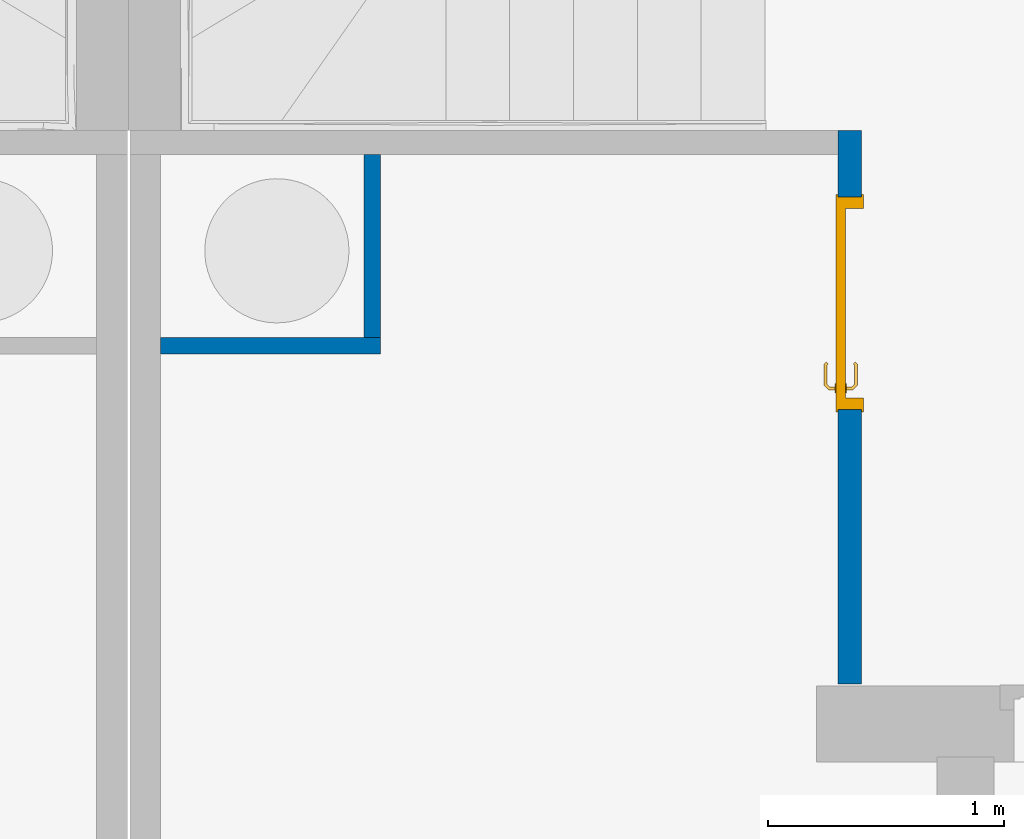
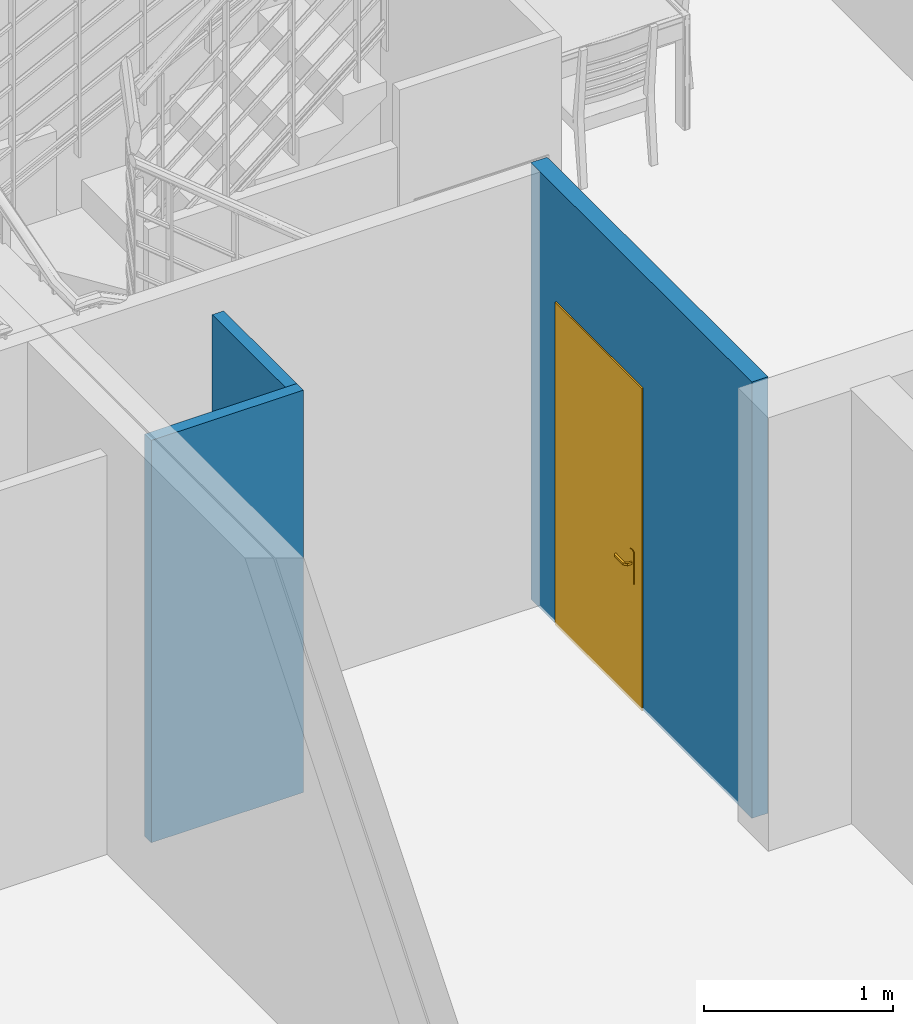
# One storey, part 7 of 33: 3 walls, 1 door, 1 opening.
"""IFC2X3 building model written with IfcOpenShell, lengths in metres."""

from ifc_helpers import new_model, entity, si_unit, converted_unit, derived_unit, direction, frame, frame_2d, origin, place, context, subcontext, project, spatial, rectangle, extrude, faceted_brep, source, transform, mapped, material, material_list, layer, layer_set, layer_usage, type_object, type_shapes, element, fill, save


model = new_model("IFC2X3")

# Units and contexts
model_context = context("Model", 3, precision=1e-05, world=origin(), true_north=direction((6.12303176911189e-17, 1.0)))
context_of_model = context(None, 3, precision=1e-05, world=origin(), true_north=direction((6.12303176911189e-17, 1.0)))
body_context = subcontext(model_context, "Body", "Model", "MODEL_VIEW")
ifc_project = project(units=[si_unit("LENGTHUNIT", "METRE"), si_unit("AREAUNIT", "SQUARE_METRE"), si_unit("VOLUMEUNIT", "CUBIC_METRE"), converted_unit("PLANEANGLEUNIT", "DEGREE", entity("IfcRatioMeasure", 0.0174532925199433), si_unit("PLANEANGLEUNIT", "RADIAN"), dimensions=[0, 0, 0, 0, 0, 0, 0]), si_unit("MASSUNIT", "GRAM", prefix="KILO"), si_unit("TIMEUNIT", "SECOND"), si_unit("FREQUENCYUNIT", "HERTZ"), si_unit("THERMODYNAMICTEMPERATUREUNIT", "DEGREE_CELSIUS"), derived_unit("THERMALTRANSMITTANCEUNIT", [(si_unit("MASSUNIT", "GRAM", prefix="KILO"), 1), (si_unit("THERMODYNAMICTEMPERATUREUNIT", "KELVIN"), -1), (si_unit("TIMEUNIT", "SECOND"), -3)]), derived_unit("VOLUMETRICFLOWRATEUNIT", [(si_unit("LENGTHUNIT", "METRE"), 3), (si_unit("TIMEUNIT", "SECOND"), -1)]), si_unit("ELECTRICCURRENTUNIT", "AMPERE"), si_unit("ELECTRICVOLTAGEUNIT", "VOLT"), si_unit("POWERUNIT", "WATT"), si_unit("FORCEUNIT", "NEWTON", prefix="KILO"), si_unit("ILLUMINANCEUNIT", "LUX"), si_unit("LUMINOUSFLUXUNIT", "LUMEN"), si_unit("LUMINOUSINTENSITYUNIT", "CANDELA"), si_unit("PRESSUREUNIT", "PASCAL")], contexts=[model_context, context_of_model])

# Site, building, storey
site_placement = place(None, origin())
site = spatial("IfcSite", under=ifc_project, at=site_placement, Name="Surface", CompositionType="ELEMENT")
building_placement = place(site_placement, origin())
building = spatial("IfcBuilding", under=site, at=building_placement, CompositionType="ELEMENT")
storey_placement = place(building_placement, origin())
storey = spatial("IfcBuildingStorey", under=building, at=storey_placement, Name="Plan des fondations  Maisons 1 et 2", CompositionType="ELEMENT", Elevation=0.0)

# Wall, opening, door
ifc_material_1 = material(Name="Peinture - Blanc")
ifc_layer_1 = layer(ifc_material_1, 0.1)
ifc_layer_set_1 = layer_set([ifc_layer_1], Name="Mur de base:Int.  Platre 100 mm en blanc 2")
ifc_layer_usage_1 = layer_usage(ifc_layer_set_1, "AXIS2", "NEGATIVE", 0.05)
wall_type_1 = type_object("IfcWallType", Name="Mur de base:Int.  Platre 100 mm en blanc 2", PredefinedType="STANDARD", material=ifc_layer_set_1)
wall_1_placement = place(storey_placement, frame((71.8846263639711, 80.2177566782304, 0.0), z_axis=(0.0, 0.0, 1.0), x_axis=(0.0, 1.0, 0.0)))
wall_1 = element("IfcWallStandardCase", 1, at=wall_1_placement, inside=storey, type_object=wall_type_1, material=ifc_layer_usage_1, Name="Mur de base:Int.  Platre 100 mm en blanc 2", ObjectType="Mur de base:Int.  Platre 100 mm en blanc 2", context=body_context, shape_type="SweptSolid", body=[
    extrude(rectangle(XDim=2.33999999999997, YDim=0.0999999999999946, at=frame_2d((1.16999999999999, -5.58580959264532e-16), x_axis=(-1.0, 0.0))), origin(), (0.0, 0.0, 1.0), 2.82),
])
opening_placement = place(wall_1_placement, frame((1.15999999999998, -0.0499999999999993, 0.0)))
opening = element("IfcOpeningElement", 2, at=opening_placement, cuts=wall_1, Name="FR_Simple (R):83 x 204 - (80):1", ObjectType="Opening", context=body_context, shape_type="SweptSolid", body=[
    extrude(rectangle(XDim=2.075, YDim=0.9, at=frame_2d((1.0375, 0.45), x_axis=(1.0, 0.0))), frame((0.0, 0.0, 0.0), z_axis=(0.0, 1.0, 0.0), x_axis=(0.0, 0.0, 1.0)), (0.0, 0.0, 1.0), 0.1),
])
ifc_material_2 = material(Name="Poignée Porte")
ifc_material_3 = material(Name="Dormants Portes")
ifc_material_4 = material(Name="Panneaux Portes")
ifc_material_list_1 = material_list([ifc_material_2, ifc_material_3, ifc_material_4])
ifc_material_list_2 = material_list([ifc_material_2, ifc_material_3, ifc_material_4])
door_style = type_object("IfcDoorStyle", Name="83 x 204 - (80)", ConstructionType="NOTDEFINED", OperationType="SINGLE_SWING_RIGHT", ParameterTakesPrecedence=False, Sizeable=False, material=ifc_material_list_2)
shared_shape = source(origin(), body_context, "Body", "Brep", [
    faceted_brep([(0.810000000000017, -0.0130000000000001, 0.764641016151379), (0.820352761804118, -0.0130000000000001, 0.766003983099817), (0.830000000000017, -0.0130000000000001, 0.770000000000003), (0.830000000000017, -0.0130000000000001, 0.980000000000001), (0.820352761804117, -0.0130000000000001, 0.983996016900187), (0.810000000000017, -0.0130000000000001, 0.985358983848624), (0.799647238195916, -0.0130000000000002, 0.983996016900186), (0.790000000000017, -0.0130000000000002, 0.980000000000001), (0.790000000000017, -0.0130000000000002, 0.770000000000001), (0.799647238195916, -0.0130000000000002, 0.766003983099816), (0.830000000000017, -0.00800000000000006, 0.980000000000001), (0.830000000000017, -0.00800000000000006, 0.770000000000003), (0.820352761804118, -0.00800000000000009, 0.766003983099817), (0.810000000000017, -0.00800000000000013, 0.764641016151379), (0.799647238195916, -0.00800000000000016, 0.766003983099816), (0.790000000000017, -0.00800000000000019, 0.770000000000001), (0.790000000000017, -0.00800000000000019, 0.980000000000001), (0.799647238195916, -0.00800000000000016, 0.983996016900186), (0.810000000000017, -0.00800000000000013, 0.985358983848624), (0.820352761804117, -0.00800000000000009, 0.983996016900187)], [[[0, 1, 2, 3, 4, 5, 6, 7, 8, 9]], [[10, 11, 12, 13, 14, 15, 16, 17, 18, 19]], [[1, 12, 11, 2]], [[0, 13, 12, 1]], [[9, 14, 13, 0]], [[9, 8, 15, 14]], [[15, 8, 7, 16]], [[6, 17, 16, 7]], [[5, 18, 17, 6]], [[4, 19, 18, 5]], [[4, 3, 10, 19]], [[10, 3, 2, 11]]]),
    faceted_brep([(0.830000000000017, 0.0319999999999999, 0.770000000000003), (0.830000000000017, 0.0319999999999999, 0.980000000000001), (0.820352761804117, 0.0319999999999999, 0.983996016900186), (0.810000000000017, 0.0319999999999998, 0.985358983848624), (0.799647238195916, 0.0319999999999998, 0.983996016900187), (0.790000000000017, 0.0319999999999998, 0.980000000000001), (0.790000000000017, 0.0319999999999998, 0.770000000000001), (0.799647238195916, 0.0319999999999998, 0.766003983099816), (0.810000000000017, 0.0319999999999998, 0.764641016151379), (0.820352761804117, 0.0319999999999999, 0.766003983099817), (0.810000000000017, 0.0369999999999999, 0.985358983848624), (0.820352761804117, 0.0369999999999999, 0.983996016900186), (0.830000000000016, 0.0369999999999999, 0.980000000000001), (0.830000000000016, 0.0369999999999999, 0.770000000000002), (0.820352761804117, 0.0369999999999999, 0.766003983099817), (0.810000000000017, 0.0369999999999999, 0.764641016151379), (0.799647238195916, 0.0369999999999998, 0.766003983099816), (0.790000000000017, 0.0369999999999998, 0.770000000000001), (0.790000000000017, 0.0369999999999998, 0.980000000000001), (0.799647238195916, 0.0369999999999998, 0.983996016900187)], [[[0, 1, 2, 3, 4, 5, 6, 7, 8, 9]], [[10, 11, 12, 13, 14, 15, 16, 17, 18, 19]], [[4, 19, 18, 5]], [[3, 10, 19, 4]], [[2, 11, 10, 3]], [[2, 1, 12, 11]], [[12, 1, 0, 13]], [[9, 14, 13, 0]], [[8, 15, 14, 9]], [[7, 16, 15, 8]], [[7, 6, 17, 16]], [[17, 6, 5, 18]]]),
    faceted_brep([(0.807974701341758, -0.0130000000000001, 0.907780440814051), (0.812025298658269, -0.0130000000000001, 0.907780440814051), (0.816000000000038, -0.0130000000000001, 0.906999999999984), (0.816000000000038, -0.0130000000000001, 0.892999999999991), (0.812025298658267, -0.0130000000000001, 0.892219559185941), (0.807974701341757, -0.0130000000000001, 0.89221955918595), (0.80399999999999, -0.0130000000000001, 0.893000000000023), (0.803999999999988, -0.0130000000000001, 0.90699999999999), (0.812025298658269, -0.0390045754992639, 0.907780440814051), (0.816000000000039, -0.0406509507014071, 0.906999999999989), (0.807974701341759, -0.0373267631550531, 0.907780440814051), (0.794298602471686, -0.0510028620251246, 0.907780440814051), (0.795976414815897, -0.0550534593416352, 0.907780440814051), (0.709142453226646, -0.0550534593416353, 0.90778044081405), (0.710820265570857, -0.0510028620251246, 0.90778044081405), (0.704342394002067, -0.0445249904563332, 0.90778044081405), (0.701478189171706, -0.0473891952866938, 0.90778044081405), (0.803999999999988, -0.0356803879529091, 0.90699999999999), (0.80399999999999, -0.0356803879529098, 0.893000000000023), (0.807974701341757, -0.0373267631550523, 0.89221955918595), (0.812025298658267, -0.0390045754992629, 0.89221955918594), (0.795976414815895, -0.0550534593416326, 0.89221955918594), (0.794298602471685, -0.0510028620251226, 0.89221955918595), (0.710820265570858, -0.0510028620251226, 0.89221955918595), (0.709142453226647, -0.0550534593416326, 0.89221955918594), (0.701478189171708, -0.0473891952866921, 0.89221955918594), (0.704342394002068, -0.044524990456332, 0.89221955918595), (0.816000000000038, -0.0406509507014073, 0.892999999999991), (0.797622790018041, -0.059028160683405, 0.906999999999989), (0.792652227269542, -0.0470281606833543, 0.90699999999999), (0.792652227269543, -0.0470281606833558, 0.893000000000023), (0.79762279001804, -0.0590281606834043, 0.892999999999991), (0.752559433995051, -0.053182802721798, 0.907878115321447), (0.757692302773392, -0.0590281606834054, 0.906999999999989), (0.707496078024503, -0.0590281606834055, 0.906999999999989), (0.752559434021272, -0.0470281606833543, 0.90699999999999), (0.712466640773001, -0.0470281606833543, 0.906999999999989), (0.752559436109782, -0.0470281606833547, 0.893000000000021), (0.712466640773, -0.0470281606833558, 0.893000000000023), (0.752559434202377, -0.0531828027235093, 0.892121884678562), (0.747426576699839, -0.0590281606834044, 0.892999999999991), (0.707496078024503, -0.0590281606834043, 0.892999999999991), (0.707152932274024, -0.0417144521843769, 0.89300000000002), (0.69866765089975, -0.0501997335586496, 0.892999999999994), (0.698667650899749, -0.0501997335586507, 0.906999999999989), (0.707152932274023, -0.0417144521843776, 0.906999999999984)], [[[0, 1, 2, 3, 4, 5, 6, 7]], [[2, 1, 8, 9]], [[1, 0, 10, 11, 12, 8]], [[13, 14, 15, 16]], [[0, 7, 17, 10]], [[18, 17, 7, 6]], [[5, 19, 18, 6]], [[5, 4, 20, 21, 22, 19]], [[23, 24, 25, 26]], [[3, 27, 20, 4]], [[9, 27, 3, 2]], [[9, 8, 12, 28]], [[10, 17, 29, 11]], [[30, 29, 17, 18]], [[18, 19, 22, 30]], [[20, 27, 31, 21]], [[28, 31, 27, 9]], [[12, 32, 33]], [[13, 33, 32]], [[33, 28, 12]], [[33, 13, 34]], [[11, 35, 32]], [[32, 12, 11]], [[32, 35, 14]], [[35, 11, 29]], [[36, 14, 35]], [[13, 32, 14]], [[30, 37, 38, 36, 35, 29]], [[39, 37, 22]], [[40, 41, 24]], [[40, 21, 31]], [[39, 21, 40]], [[23, 37, 39]], [[39, 24, 23]], [[30, 22, 37]], [[37, 23, 38]], [[21, 39, 22]], [[24, 39, 40]], [[31, 28, 33, 34, 41, 40]], [[42, 26, 25, 43, 44, 16, 15, 45]], [[13, 16, 44, 34]], [[36, 45, 15, 14]], [[42, 45, 36, 38]], [[38, 23, 26, 42]], [[24, 41, 43, 25]], [[44, 43, 41, 34]]]),
    faceted_brep([(0.812025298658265, 0.0369999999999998, 0.907780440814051), (0.807974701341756, 0.0369999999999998, 0.907780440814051), (0.803999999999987, 0.0369999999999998, 0.90699999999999), (0.803999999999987, 0.0369999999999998, 0.89300000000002), (0.807974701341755, 0.0369999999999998, 0.892219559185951), (0.812025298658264, 0.0369999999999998, 0.892219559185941), (0.816000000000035, 0.0369999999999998, 0.892999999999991), (0.816000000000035, 0.0369999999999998, 0.90699999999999), (0.803999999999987, 0.0594852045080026, 0.90699999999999), (0.803999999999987, 0.0594852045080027, 0.89300000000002), (0.807974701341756, 0.0611315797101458, 0.907780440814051), (0.812025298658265, 0.0628093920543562, 0.907780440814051), (0.795838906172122, 0.0789957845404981, 0.907780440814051), (0.794161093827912, 0.0749451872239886, 0.907780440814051), (0.71079312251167, 0.0749451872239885, 0.907780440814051), (0.70911531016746, 0.0789957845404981, 0.907780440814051), (0.701451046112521, 0.071331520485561, 0.907780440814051), (0.70431525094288, 0.0684673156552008, 0.907780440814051), (0.816000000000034, 0.0644557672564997, 0.90699999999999), (0.816000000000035, 0.0644557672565, 0.892999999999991), (0.812025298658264, 0.0628093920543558, 0.892219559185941), (0.807974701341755, 0.0611315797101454, 0.892219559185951), (0.794161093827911, 0.0749451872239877, 0.892219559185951), (0.795838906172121, 0.0789957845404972, 0.892219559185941), (0.70911531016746, 0.0789957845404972, 0.89221955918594), (0.71079312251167, 0.0749451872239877, 0.89221955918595), (0.704315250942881, 0.0684673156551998, 0.89221955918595), (0.701451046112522, 0.07133152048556, 0.89221955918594), (0.792514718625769, 0.07097048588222, 0.89300000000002), (0.792514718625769, 0.0709704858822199, 0.90699999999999), (0.797485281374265, 0.0829704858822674, 0.90699999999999), (0.797485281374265, 0.082970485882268, 0.892999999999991), (0.752477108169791, 0.0709704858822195, 0.90699999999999), (0.712439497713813, 0.0709704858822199, 0.90699999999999), (0.712439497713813, 0.0709704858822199, 0.89300000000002), (0.752477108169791, 0.0709704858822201, 0.89300000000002), (0.752477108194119, 0.0771249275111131, 0.907878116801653), (0.747399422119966, 0.0829704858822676, 0.90699999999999), (0.707468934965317, 0.0829704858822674, 0.90699999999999), (0.757554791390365, 0.0829704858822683, 0.892999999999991), (0.707468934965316, 0.082970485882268, 0.892999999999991), (0.752477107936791, 0.0771249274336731, 0.892121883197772), (0.698640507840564, 0.0741420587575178, 0.90699999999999), (0.698640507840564, 0.074142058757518, 0.892999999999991), (0.707125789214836, 0.0656567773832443, 0.89300000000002), (0.707125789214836, 0.0656567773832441, 0.90699999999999)], [[[0, 1, 2, 3, 4, 5, 6, 7]], [[8, 9, 3, 2]], [[1, 10, 8, 2]], [[1, 0, 11, 12, 13, 10]], [[14, 15, 16, 17]], [[7, 18, 11, 0]], [[18, 7, 6, 19]], [[6, 5, 20, 19]], [[5, 4, 21, 22, 23, 20]], [[24, 25, 26, 27]], [[4, 3, 9, 21]], [[28, 9, 8, 29]], [[8, 10, 13, 29]], [[18, 30, 12, 11]], [[31, 30, 18, 19]], [[19, 20, 23, 31]], [[21, 9, 28, 22]], [[28, 29, 32, 33, 34, 35]], [[36, 32, 13]], [[37, 38, 15]], [[37, 12, 30]], [[36, 12, 37]], [[14, 32, 36]], [[36, 15, 14]], [[29, 13, 32]], [[32, 14, 33]], [[12, 36, 13]], [[15, 36, 37]], [[30, 31, 39, 40, 38, 37]], [[23, 41, 39]], [[24, 39, 41]], [[39, 31, 23]], [[39, 24, 40]], [[22, 35, 41]], [[41, 23, 22]], [[41, 35, 25]], [[35, 22, 28]], [[34, 25, 35]], [[24, 41, 25]], [[17, 16, 42, 43, 27, 26, 44, 45]], [[44, 34, 33, 45]], [[33, 14, 17, 45]], [[15, 38, 42, 16]], [[42, 38, 40, 43]], [[24, 27, 43, 40]], [[34, 44, 26, 25]]]),
    faceted_brep([(0.900000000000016, 0.0, 0.0), (0.910000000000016, 0.0, 0.0), (0.910000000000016, -0.00799999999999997, 0.0), (0.865000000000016, -0.00799999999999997, 0.0), (0.865000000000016, 0.032, 0.0), (0.850000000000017, 0.032, 0.0), (0.850000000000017, 0.108000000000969, 0.0), (0.910000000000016, 0.108000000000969, 0.0), (0.910000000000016, 0.10000000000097, 0.0), (0.900000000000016, 0.10000000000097, 0.0), (0.900000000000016, 0.10000000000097, 2.075), (0.900000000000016, 0.0, 2.075), (0.910000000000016, 0.10000000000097, 2.085), (-0.00999999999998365, 0.10000000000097, 2.085), (-0.00999999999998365, 0.10000000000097, 0.0), (0.0, 0.10000000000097, 0.0), (0.0, 0.10000000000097, 2.075), (0.910000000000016, 0.108000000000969, 2.085), (0.850000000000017, 0.108000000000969, 2.025), (0.0500000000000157, 0.108000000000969, 2.025), (0.0500000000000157, 0.108000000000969, 0.0), (-0.00999999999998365, 0.108000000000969, 0.0), (-0.00999999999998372, 0.108000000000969, 2.085), (0.850000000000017, 0.032, 2.025), (0.865000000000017, 0.032, 2.04), (0.0350000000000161, 0.032, 2.04), (0.0350000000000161, 0.032, 0.0), (0.0500000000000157, 0.032, 0.0), (0.0500000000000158, 0.032, 2.025), (0.865000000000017, -0.00799999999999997, 2.04), (0.910000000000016, -0.00799999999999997, 2.085), (-0.00999999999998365, -0.00799999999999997, 2.085), (-0.00999999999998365, -0.00799999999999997, 0.0), (0.0350000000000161, -0.00799999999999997, 0.0), (0.0350000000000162, -0.00799999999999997, 2.04), (0.910000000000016, 0.0, 2.085), (0.0, 0.0, 2.075), (0.0, 0.0, 0.0), (-0.00999999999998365, 0.0, 0.0), (-0.00999999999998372, 0.0, 2.085)], [[[0, 1, 2, 3, 4, 5, 6, 7, 8, 9]], [[9, 10, 11, 0]], [[8, 12, 13, 14, 15, 16, 10, 9]], [[7, 17, 12, 8]], [[6, 18, 19, 20, 21, 22, 17, 7]], [[5, 23, 18, 6]], [[4, 24, 25, 26, 27, 28, 23, 5]], [[3, 29, 24, 4]], [[2, 30, 31, 32, 33, 34, 29, 3]], [[1, 35, 30, 2]], [[0, 11, 36, 37, 38, 39, 35, 1]], [[10, 16, 36, 11]], [[17, 22, 13, 12]], [[23, 28, 19, 18]], [[29, 34, 25, 24]], [[35, 39, 31, 30]], [[37, 15, 14, 21, 20, 27, 26, 33, 32, 38]], [[16, 15, 37, 36]], [[22, 21, 14, 13]], [[28, 27, 20, 19]], [[34, 33, 26, 25]], [[39, 38, 32, 31]]]),
    faceted_brep([(0.865000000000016, -0.00799999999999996, 2.04), (0.0350000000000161, -0.00799999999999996, 2.04), (0.0350000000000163, -0.00799999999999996, 0.0), (0.865000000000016, -0.00799999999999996, 0.0), (0.865000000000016, 0.032, 2.04), (0.865000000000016, 0.032, 0.0), (0.0350000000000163, 0.032, 0.0), (0.0350000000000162, 0.032, 2.04)], [[[0, 1, 2, 3]], [[4, 5, 6, 7]], [[3, 5, 4, 0]], [[2, 6, 5, 3]], [[1, 7, 6, 2]], [[0, 4, 7, 1]]]),
])
type_shapes(door_style, [shared_shape])
door_placement = place(opening_placement, frame((0.900000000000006, 0.0999999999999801, 0.0), z_axis=(0.0, 0.0, 1.0), x_axis=(-1.0, 0.0, 0.0)))
door = element("IfcDoor", 3, at=door_placement, inside=storey, type_object=door_style, material=ifc_material_list_1, Name="FR_Simple (R):83 x 204 - (80)", ObjectType="83 x 204 - (80)", OverallHeight=2.075, OverallWidth=0.900000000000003, context=body_context, shape_type="MappedRepresentation", body=[
    mapped(shared_shape, transform((0.0, 0.0, 0.0), scale=1.0)),
])
fill(opening, door)

# Walls
ifc_layer_2 = layer(ifc_material_1, 0.07)
ifc_layer_set_2 = layer_set([ifc_layer_2], Name="Mur de base:Int.  Platre 70 mm en blanc")
ifc_layer_usage_2 = layer_usage(ifc_layer_set_2, "AXIS2", "NEGATIVE", 0.035)
wall_type_2 = type_object("IfcWallType", Name="Mur de base:Int.  Platre 70 mm en blanc", PredefinedType="STANDARD", material=ifc_layer_set_2)
wall_2_placement = place(storey_placement, frame((68.9696263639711, 81.6477566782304, 0.0)))
element("IfcWallStandardCase", 4, at=wall_2_placement, inside=storey, type_object=wall_type_2, material=ifc_layer_usage_2, Name="Mur de base:Int.  Platre 70 mm en blanc", ObjectType="Mur de base:Int.  Platre 70 mm en blanc", context=body_context, shape_type="SweptSolid", body=[
    extrude(rectangle(XDim=0.929999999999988, YDim=0.0699999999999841, at=frame_2d((0.464999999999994, 0.0), x_axis=(-1.0, 0.0))), origin(), (0.0, 0.0, 1.0), 2.6),
])
ifc_layer_usage_3 = layer_usage(ifc_layer_set_2, "AXIS2", "NEGATIVE", 0.035)
wall_3_placement = place(storey_placement, frame((69.8646263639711, 81.6827566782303, 0.0), z_axis=(0.0, 0.0, 1.0), x_axis=(0.0, 1.0, 0.0)))
element("IfcWallStandardCase", 5, at=wall_3_placement, inside=storey, type_object=wall_type_2, material=ifc_layer_usage_3, Name="Mur de base:Int.  Platre 70 mm en blanc", ObjectType="Mur de base:Int.  Platre 70 mm en blanc", context=body_context, shape_type="SweptSolid", body=[
    extrude(rectangle(XDim=0.774999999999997, YDim=0.0700000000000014, at=frame_2d((0.387499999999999, 0.0), x_axis=(-1.0, 0.0))), origin(), (0.0, 0.0, 1.0), 2.6),
])

save(model, "model.ifc")
